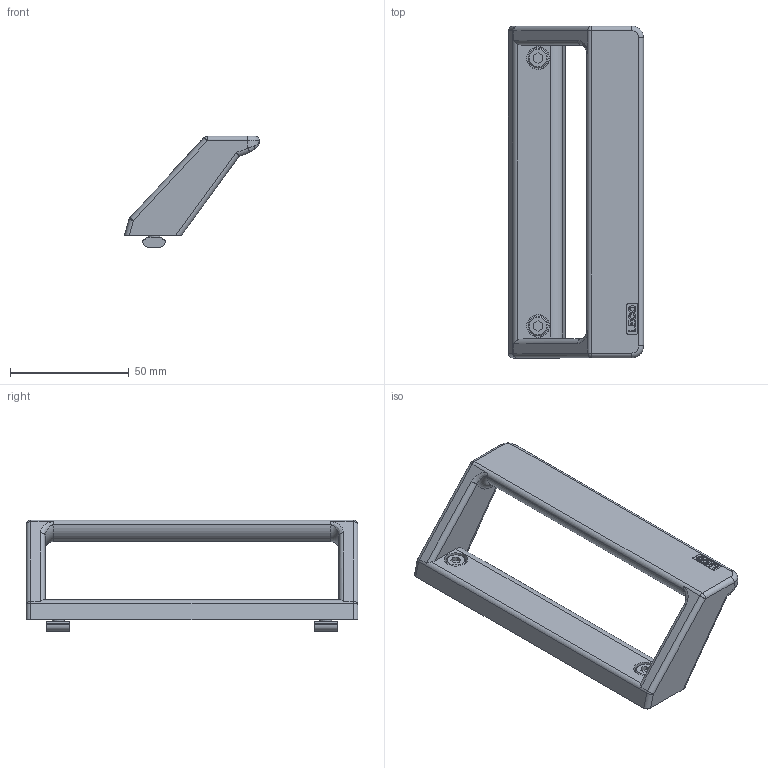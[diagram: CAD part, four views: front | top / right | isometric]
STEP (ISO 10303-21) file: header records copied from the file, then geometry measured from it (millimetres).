
FILE_DESCRIPTION(('STEP AP214'),'1');
FILE_NAME('HAOL-25B.stp','2024-03-01T09:40:30',(' '),(' '),'Spatial InterOp 3D',' ',' ');
FILE_SCHEMA(('AUTOMOTIVE_DESIGN { 1 0 10303 214 1 1 1 1 }'));
Length unit declared in the file: millimetre
Products named in the file (6): HAOL-25B; HAOL-H; ねじ: 穴付き - M5.0 x 8.0; NF25-M5
Assembly tree (5 placements, depth 2):
  HAOL-25B
    HAOL-H
    ねじ: 穴付き - M5.0 x 8.0
    ねじ: 穴付き - M5.0 x 8.0
    NF25-M5
    NF25-M5
Bounding box: 57 x 140 x 47.1 mm (x, y, z)
Volume: 61731.3 mm3; surface area: 21773.9 mm2
Topology: 5 solids, 5 shells, 277 faces, 743 edges, 480 vertices
Faces by surface type: plane 184, cylinder 63, bspline 10, cone 8, torus 8, sphere 4
Full cylindrical faces by diameter (mm): 5 x2, 8.385 x2
Entity records: 12228 total; most frequent: CARTESIAN_POINT 2980, ORIENTED_EDGE 1450, DIRECTION 1399, EDGE_CURVE 725, LINE 541, VECTOR 541, VERTEX_POINT 478, AXIS2_PLACEMENT_3D 429
